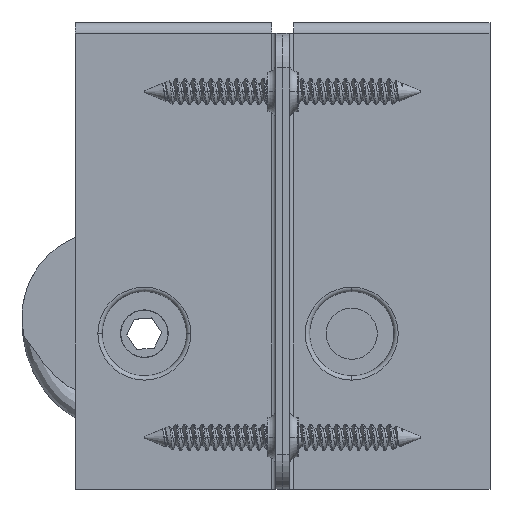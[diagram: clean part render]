
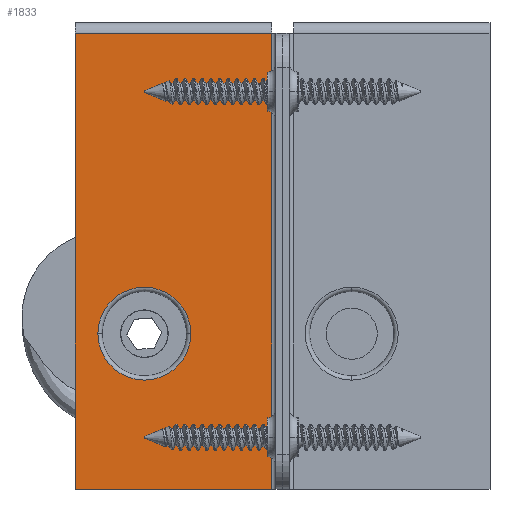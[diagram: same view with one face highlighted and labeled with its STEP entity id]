
A CAD part, top view. The second image highlights one B-rep face of the part: STEP entity #1833.
In plain terms, the highlighted planar face has unit normal (0, 0, 1).
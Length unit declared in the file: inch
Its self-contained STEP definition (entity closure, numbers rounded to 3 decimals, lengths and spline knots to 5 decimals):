
#1767 = EDGE_LOOP ( 'NONE', ( #1769, #1768, #1799, #1828 ) ) ;
#1768 = ORIENTED_EDGE ( 'NONE', *, *, #1831, .F. ) ;
#1769 = ORIENTED_EDGE ( 'NONE', *, *, #1835, .F. ) ;
#1773 = VERTEX_POINT ( 'NONE', #4648 ) ;
#1775 = EDGE_LOOP ( 'NONE', ( #1826, #1832 ) ) ;
#1780 = EDGE_CURVE ( 'NONE', #1773, #1782, #4701, .T. ) ;
#1782 = VERTEX_POINT ( 'NONE', #4696 ) ;
#1799 = ORIENTED_EDGE ( 'NONE', *, *, #1817, .F. ) ;
#1816 = VERTEX_POINT ( 'NONE', #4766 ) ;
#1817 = EDGE_CURVE ( 'NONE', #1773, #1816, #4748, .T. ) ;
#1826 = ORIENTED_EDGE ( 'NONE', *, *, #14628, .T. ) ;
#1828 = ORIENTED_EDGE ( 'NONE', *, *, #1780, .T. ) ;
#1829 = VERTEX_POINT ( 'NONE', #4741 ) ;
#1831 = EDGE_CURVE ( 'NONE', #1816, #1829, #4744, .T. ) ;
#1832 = ORIENTED_EDGE ( 'NONE', *, *, #1834, .T. ) ;
#1833 = ADVANCED_FACE ( 'NONE', ( #4761, #4739 ), #4798, .F. ) ;
#1834 = EDGE_CURVE ( 'NONE', #14651, #14634, #4791, .T. ) ;
#1835 = EDGE_CURVE ( 'NONE', #1829, #1782, #4778, .T. ) ;
#4648 = CARTESIAN_POINT ( 'NONE',  ( -1.5, -1.6875, 0.25 ) ) ;
#4693 = DIRECTION ( 'NONE',  ( 1., 0., 0. ) ) ;
#4694 = VECTOR ( 'NONE', #4693, 39.37008 ) ;
#4696 = CARTESIAN_POINT ( 'NONE',  ( -0.07905, -1.6875, 0.25 ) ) ;
#4700 = CARTESIAN_POINT ( 'NONE',  ( -1.5, -1.6875, 0.25 ) ) ;
#4701 = LINE ( 'NONE', #4700, #4694 ) ;
#4739 = FACE_OUTER_BOUND ( 'NONE', #1767, .T. ) ;
#4741 = CARTESIAN_POINT ( 'NONE',  ( -0.07905, 1.60845, 0.25 ) ) ;
#4743 = AXIS2_PLACEMENT_3D ( 'NONE', #4788, #4787, #4786 ) ;
#4744 = LINE ( 'NONE', #4795, #4794 ) ;
#4746 = DIRECTION ( 'NONE',  ( 0., 1., 0. ) ) ;
#4747 = VECTOR ( 'NONE', #4746, 39.37008 ) ;
#4748 = LINE ( 'NONE', #4767, #4747 ) ;
#4761 = FACE_BOUND ( 'NONE', #1775, .T. ) ;
#4766 = CARTESIAN_POINT ( 'NONE',  ( -1.5, 1.60845, 0.25 ) ) ;
#4767 = CARTESIAN_POINT ( 'NONE',  ( -1.5, -1.6875, 0.25 ) ) ;
#4776 = DIRECTION ( 'NONE',  ( 0., -1., 0. ) ) ;
#4777 = VECTOR ( 'NONE', #4776, 39.37008 ) ;
#4778 = LINE ( 'NONE', #4783, #4777 ) ;
#4780 = DIRECTION ( 'NONE',  ( -1., 0., 0. ) ) ;
#4781 = DIRECTION ( 'NONE',  ( 0., 0., -1. ) ) ;
#4782 = CARTESIAN_POINT ( 'NONE',  ( -1., -0.5625, 0.25 ) ) ;
#4783 = CARTESIAN_POINT ( 'NONE',  ( -0.07905, 1.60845, 0.25 ) ) ;
#4786 = DIRECTION ( 'NONE',  ( -1., 0., 0. ) ) ;
#4787 = DIRECTION ( 'NONE',  ( 0., 0., -1. ) ) ;
#4788 = CARTESIAN_POINT ( 'NONE',  ( -1.5, -1.6875, 0.25 ) ) ;
#4789 = AXIS2_PLACEMENT_3D ( 'NONE', #4782, #4781, #4780 ) ;
#4791 = CIRCLE ( 'NONE', #4789, 0.336 ) ;
#4793 = DIRECTION ( 'NONE',  ( 1., 0., 0. ) ) ;
#4794 = VECTOR ( 'NONE', #4793, 39.37008 ) ;
#4795 = CARTESIAN_POINT ( 'NONE',  ( -1.5, 1.60845, 0.25 ) ) ;
#4798 = PLANE ( 'NONE',  #4743 ) ;
#8287 = CARTESIAN_POINT ( 'NONE',  ( -1.336, -0.5625, 0.25 ) ) ;
#8292 = DIRECTION ( 'NONE',  ( -1., 0., 0. ) ) ;
#8293 = DIRECTION ( 'NONE',  ( 0., 0., -1. ) ) ;
#8294 = CARTESIAN_POINT ( 'NONE',  ( -1., -0.5625, 0.25 ) ) ;
#8295 = AXIS2_PLACEMENT_3D ( 'NONE', #8294, #8293, #8292 ) ;
#8296 = CIRCLE ( 'NONE', #8295, 0.336 ) ;
#8449 = CARTESIAN_POINT ( 'NONE',  ( -0.664, -0.5625, 0.25 ) ) ;
#14628 = EDGE_CURVE ( 'NONE', #14634, #14651, #8296, .T. ) ;
#14634 = VERTEX_POINT ( 'NONE', #8287 ) ;
#14651 = VERTEX_POINT ( 'NONE', #8449 ) ;
